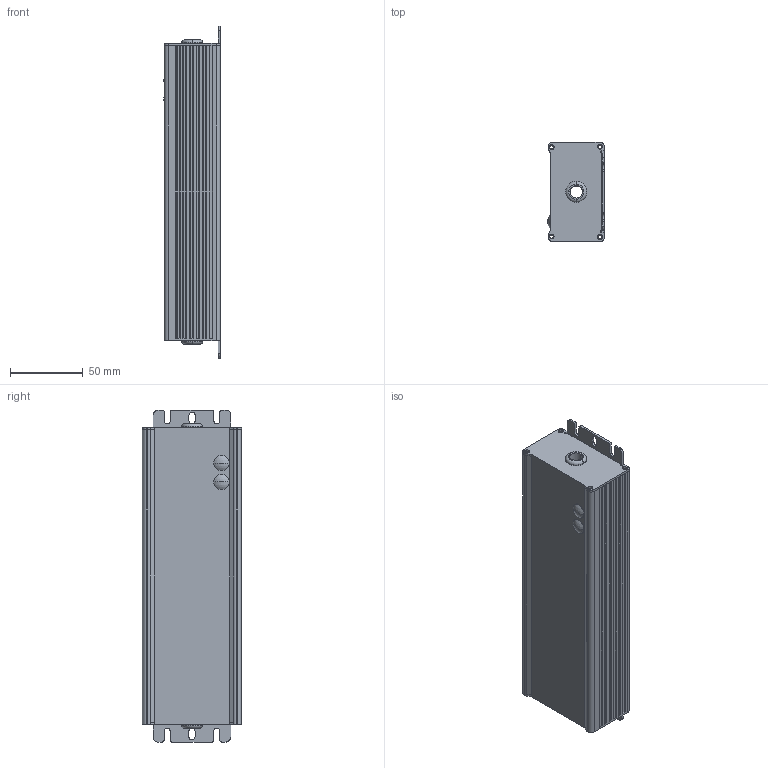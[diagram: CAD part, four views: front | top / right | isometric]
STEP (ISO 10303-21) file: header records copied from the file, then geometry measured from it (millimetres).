
FILE_DESCRIPTION(('OneSpaceDesigner STEP Export'),'2;1');
FILE_NAME('HLG-185-A.stp','2010-06-21T13:48:28',(''),(''),'OneSpace Designer STEP processor for AP214 (Solid Model)','OneSpace Designer 13.20 11-May-2005 (C) CoCreate Software GmbH','');
FILE_SCHEMA(('AUTOMOTIVE_DESIGN { 1 0 10303 214 1 1 1 1 }'));
Length unit declared in the file: millimetre
Products named in the file (2): CASE; HLG-185-A.stp
Assembly tree (1 placements, depth 2):
  HLG-185-A.stp
    CASE
Bounding box: 39.04 x 68.05 x 228 mm (x, y, z)
Volume: 96297.3 mm3; surface area: 104469.8 mm2
Topology: 1 solids, 1 shells, 307 faces, 855 edges, 552 vertices
Faces by surface type: plane 162, cylinder 109, cone 24, torus 8, sphere 4
Entity records: 8775 total; most frequent: ORIENTED_EDGE 1710, CARTESIAN_POINT 1471, DIRECTION 1321, EDGE_CURVE 855, VERTEX_POINT 552, VECTOR 517, LINE 517, AXIS2_PLACEMENT_3D 402
